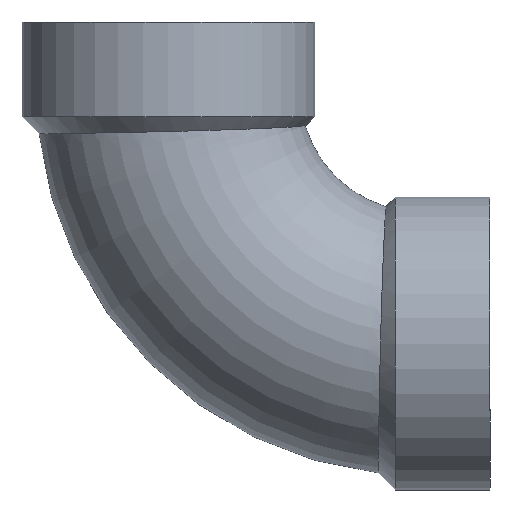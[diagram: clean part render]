
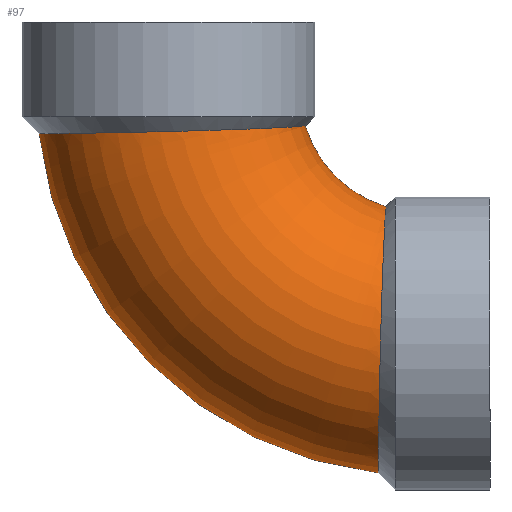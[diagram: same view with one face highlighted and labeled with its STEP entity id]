
A CAD part, front view. The second image highlights one B-rep face of the part: STEP entity #97.
In plain terms, the highlighted toroidal (fillet/blend) face has major radius 48.895 mm and minor radius 25.489 mm.
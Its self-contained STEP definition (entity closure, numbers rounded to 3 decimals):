
#97=ADVANCED_FACE('',(#192),#193,.T.);
#192=FACE_OUTER_BOUND('',#282,.T.);
#193=TOROIDAL_SURFACE('',#283,48.895,25.489);
#282=EDGE_LOOP('',(#491,#492,#493,#494));
#283=AXIS2_PLACEMENT_3D('',#495,#496,#497);
#491=ORIENTED_EDGE('',*,*,#516,.T.);
#492=ORIENTED_EDGE('',*,*,#565,.T.);
#493=ORIENTED_EDGE('',*,*,#518,.T.);
#494=ORIENTED_EDGE('',*,*,#556,.T.);
#495=CARTESIAN_POINT('',(4.445,0.0,48.895));
#496=DIRECTION('',(0.,-1.0,0.));
#497=DIRECTION('',(0.,0.0,1.0));
#516=EDGE_CURVE('',#601,#602,#603,.T.);
#518=EDGE_CURVE('',#606,#604,#607,.T.);
#556=EDGE_CURVE('',#604,#601,#673,.T.);
#565=EDGE_CURVE('',#602,#606,#686,.T.);
#601=VERTEX_POINT('',#722);
#602=VERTEX_POINT('',#723);
#603=CIRCLE('',#724,74.384);
#604=VERTEX_POINT('',#725);
#606=VERTEX_POINT('',#748);
#607=CIRCLE('',#749,23.406);
#673=B_SPLINE_CURVE_WITH_KNOTS('',3,(#1286,#1287,#1288,#1289,#1290,#1291,#1292,#1293,#1294,#1295,#1296,#1297,#1298,#1299,#1300,#1301,#1302,#1303,#1304,#1305,#1306,#1307),.UNSPECIFIED.,.F.,.F.,(4,2,2,2,2,2,2,2,2,2,4),(-3.178,-3.123,-2.995,-2.64,-2.242,-1.871,-1.508,-1.141,-0.769,-0.388,-0.0),.UNSPECIFIED.);
#686=B_SPLINE_CURVE_WITH_KNOTS('',3,(#1324,#1325,#1326,#1327,#1328,#1329,#1330,#1331,#1332,#1333,#1334,#1335,#1336,#1337,#1338,#1339,#1340,#1341,#1342,#1343,#1344,#1345),.UNSPECIFIED.,.F.,.F.,(4,2,2,2,2,2,2,2,2,2,4),(-6.355,-5.967,-5.569,-5.17,-4.769,-4.366,-3.959,-3.608,-3.345,-3.223,-3.178),.UNSPECIFIED.);
#722=CARTESIAN_POINT('',(-69.473,0.,40.583));
#723=CARTESIAN_POINT('',(-3.867,0.,-25.023));
#724=AXIS2_PLACEMENT_3D('',#1810,#1811,#1812);
#725=CARTESIAN_POINT('',(-17.943,0.,42.067));
#748=CARTESIAN_POINT('',(-2.383,0.,26.507));
#749=AXIS2_PLACEMENT_3D('',#1813,#1814,#1815);
#1286=CARTESIAN_POINT('',(-17.943,0.,42.067));
#1287=CARTESIAN_POINT('',(-17.943,-0.465,42.067));
#1288=CARTESIAN_POINT('',(-17.956,-0.93,42.066));
#1289=CARTESIAN_POINT('',(-18.043,-2.471,42.061));
#1290=CARTESIAN_POINT('',(-18.173,-3.542,42.053));
#1291=CARTESIAN_POINT('',(-18.928,-7.555,42.006));
#1292=CARTESIAN_POINT('',(-20.013,-10.381,41.941));
#1293=CARTESIAN_POINT('',(-23.305,-15.843,41.766));
#1294=CARTESIAN_POINT('',(-25.602,-18.361,41.656));
#1295=CARTESIAN_POINT('',(-30.832,-22.234,41.445));
#1296=CARTESIAN_POINT('',(-33.669,-23.631,41.345));
#1297=CARTESIAN_POINT('',(-39.645,-25.335,41.163));
#1298=CARTESIAN_POINT('',(-42.735,-25.649,41.081));
#1299=CARTESIAN_POINT('',(-48.898,-25.175,40.936));
#1300=CARTESIAN_POINT('',(-51.923,-24.384,40.874));
#1301=CARTESIAN_POINT('',(-57.595,-21.738,40.767));
#1302=CARTESIAN_POINT('',(-60.185,-19.888,40.723));
#1303=CARTESIAN_POINT('',(-64.605,-15.29,40.653));
#1304=CARTESIAN_POINT('',(-66.377,-12.566,40.627));
#1305=CARTESIAN_POINT('',(-68.834,-6.541,40.592));
#1306=CARTESIAN_POINT('',(-69.473,-3.286,40.583));
#1307=CARTESIAN_POINT('',(-69.473,0.,40.583));
#1324=CARTESIAN_POINT('',(-3.867,0.,-25.023));
#1325=CARTESIAN_POINT('',(-3.867,-3.291,-25.023));
#1326=CARTESIAN_POINT('',(-3.858,-6.549,-24.383));
#1327=CARTESIAN_POINT('',(-3.822,-12.715,-21.865));
#1328=CARTESIAN_POINT('',(-3.795,-15.55,-19.983));
#1329=CARTESIAN_POINT('',(-3.718,-20.333,-15.219));
#1330=CARTESIAN_POINT('',(-3.67,-22.23,-12.382));
#1331=CARTESIAN_POINT('',(-3.549,-24.823,-6.123));
#1332=CARTESIAN_POINT('',(-3.477,-25.489,-2.763));
#1333=CARTESIAN_POINT('',(-3.309,-25.489,4.043));
#1334=CARTESIAN_POINT('',(-3.213,-24.816,7.425));
#1335=CARTESIAN_POINT('',(-3.001,-22.197,13.762));
#1336=CARTESIAN_POINT('',(-2.887,-20.262,16.656));
#1337=CARTESIAN_POINT('',(-2.683,-15.718,21.179));
#1338=CARTESIAN_POINT('',(-2.593,-13.268,22.898));
#1339=CARTESIAN_POINT('',(-2.47,-8.561,25.093));
#1340=CARTESIAN_POINT('',(-2.429,-6.43,25.764));
#1341=CARTESIAN_POINT('',(-2.395,-3.218,26.319));
#1342=CARTESIAN_POINT('',(-2.388,-2.189,26.432));
#1343=CARTESIAN_POINT('',(-2.384,-0.771,26.498));
#1344=CARTESIAN_POINT('',(-2.383,-0.385,26.507));
#1345=CARTESIAN_POINT('',(-2.383,0.,26.507));
#1810=CARTESIAN_POINT('',(4.445,0.,48.895));
#1811=DIRECTION('',(0.,-1.0,0.));
#1812=DIRECTION('',(0.0,0.,-1.0));
#1813=CARTESIAN_POINT('',(4.445,0.,48.895));
#1814=DIRECTION('',(0.,1.0,0.));
#1815=DIRECTION('',(0.0,0.,-1.0));
